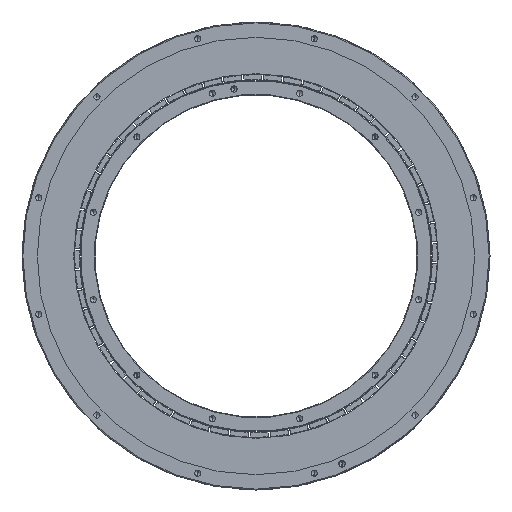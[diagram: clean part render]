
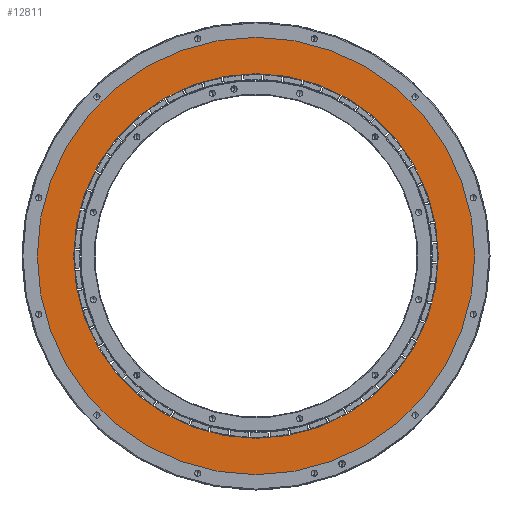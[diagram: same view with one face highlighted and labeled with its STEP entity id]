
A CAD part, front view. The second image highlights one B-rep face of the part: STEP entity #12811.
In plain terms, the highlighted planar face has unit normal (0, -1, 0).
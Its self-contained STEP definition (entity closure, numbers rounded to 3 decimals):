
#310 = ORIENTED_EDGE ( 'NONE', *, *, #6325, .F. ) ;
#1838 = CIRCLE ( 'NONE', #21099, 150. ) ;
#1854 = CIRCLE ( 'NONE', #25530, 179.93 ) ;
#2396 = DIRECTION ( 'NONE',  ( 0., -1., 0. ) ) ;
#3943 = ORIENTED_EDGE ( 'NONE', *, *, #33537, .T. ) ;
#4002 = CARTESIAN_POINT ( 'NONE',  ( 0., -54., -179.93 ) ) ;
#4027 = CARTESIAN_POINT ( 'NONE',  ( 0., -54., 0. ) ) ;
#4196 = ORIENTED_EDGE ( 'NONE', *, *, #24381, .T. ) ;
#4393 = CIRCLE ( 'NONE', #10456, 150. ) ;
#4473 = DIRECTION ( 'NONE',  ( 0., 0., -1. ) ) ;
#4535 = AXIS2_PLACEMENT_3D ( 'NONE', #21570, #32089, #8492 ) ;
#4901 = VERTEX_POINT ( 'NONE', #4002 ) ;
#4905 = CARTESIAN_POINT ( 'NONE',  ( 0., -54., 150. ) ) ;
#6325 = EDGE_CURVE ( 'NONE', #21114, #8318, #1838, .T. ) ;
#7246 = ORIENTED_EDGE ( 'NONE', *, *, #15759, .F. ) ;
#8318 = VERTEX_POINT ( 'NONE', #22835 ) ;
#8492 = DIRECTION ( 'NONE',  ( 0., 0., -1. ) ) ;
#9558 = DIRECTION ( 'NONE',  ( 0., 0., -1. ) ) ;
#10456 = AXIS2_PLACEMENT_3D ( 'NONE', #25502, #20515, #4473 ) ;
#11095 = EDGE_LOOP ( 'NONE', ( #3943, #4196 ) ) ;
#12118 = DIRECTION ( 'NONE',  ( 0., -1., 0. ) ) ;
#12811 = ADVANCED_FACE ( 'NONE', ( #16079, #26576 ), #13647, .T. ) ;
#13244 = VERTEX_POINT ( 'NONE', #19812 ) ;
#13647 = PLANE ( 'NONE',  #4535 ) ;
#15495 = CARTESIAN_POINT ( 'NONE',  ( 0., -54., 0. ) ) ;
#15759 = EDGE_CURVE ( 'NONE', #8318, #21114, #4393, .T. ) ;
#16079 = FACE_BOUND ( 'NONE', #27686, .T. ) ;
#18507 = DIRECTION ( 'NONE',  ( 0., 0., -1. ) ) ;
#19812 = CARTESIAN_POINT ( 'NONE',  ( 0., -54., 179.93 ) ) ;
#20515 = DIRECTION ( 'NONE',  ( 0., -1., 0. ) ) ;
#21022 = CIRCLE ( 'NONE', #30357, 179.93 ) ;
#21099 = AXIS2_PLACEMENT_3D ( 'NONE', #28654, #31580, #18507 ) ;
#21114 = VERTEX_POINT ( 'NONE', #4905 ) ;
#21570 = CARTESIAN_POINT ( 'NONE',  ( 0., -54., 0. ) ) ;
#22835 = CARTESIAN_POINT ( 'NONE',  ( 0., -54., -150. ) ) ;
#24381 = EDGE_CURVE ( 'NONE', #13244, #4901, #21022, .T. ) ;
#25502 = CARTESIAN_POINT ( 'NONE',  ( 0., -54., 0. ) ) ;
#25530 = AXIS2_PLACEMENT_3D ( 'NONE', #4027, #12118, #9558 ) ;
#26576 = FACE_OUTER_BOUND ( 'NONE', #11095, .T. ) ;
#27686 = EDGE_LOOP ( 'NONE', ( #7246, #310 ) ) ;
#28654 = CARTESIAN_POINT ( 'NONE',  ( 0., -54., 0. ) ) ;
#29603 = DIRECTION ( 'NONE',  ( 0., 0., -1. ) ) ;
#30357 = AXIS2_PLACEMENT_3D ( 'NONE', #15495, #2396, #29603 ) ;
#31580 = DIRECTION ( 'NONE',  ( 0., -1., 0. ) ) ;
#32089 = DIRECTION ( 'NONE',  ( 0., -1., 0. ) ) ;
#33537 = EDGE_CURVE ( 'NONE', #4901, #13244, #1854, .T. ) ;
